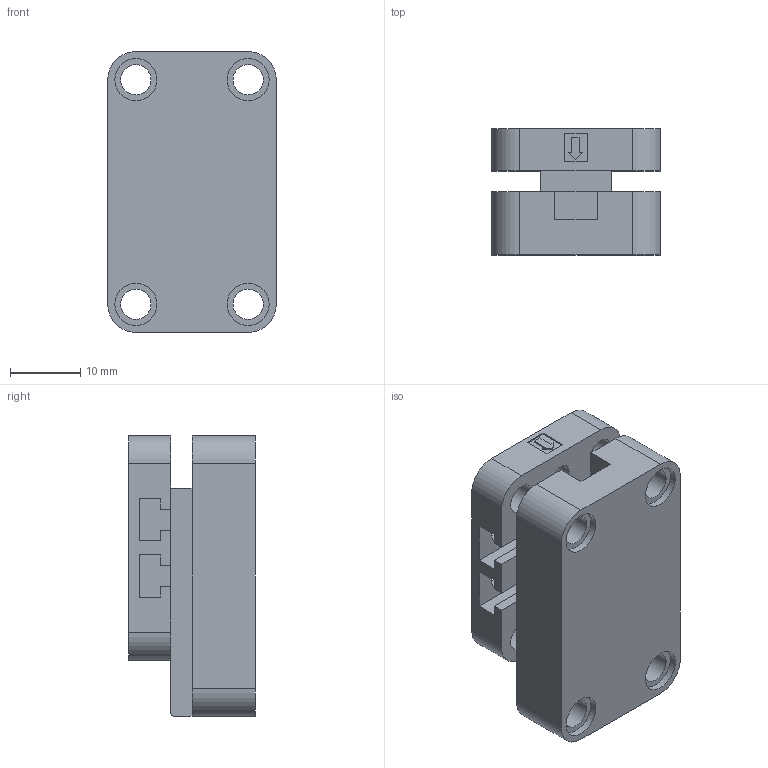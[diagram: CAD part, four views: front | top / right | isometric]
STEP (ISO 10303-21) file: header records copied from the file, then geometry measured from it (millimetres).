
FILE_DESCRIPTION(/* description */ (''),/* implementation_level */ '2;1');
FILE_NAME(/* name */ 'M5 Mini Scales Unit.stp',/* time_stamp */ '2025-01-02T17:19:36+01:00',/* author */ ('R5800u'),/* organization */ (''),/* preprocessor_version */ 'ST-DEVELOPER v20',/* originating_system */ 'Autodesk Inventor 2025',/* authorisation */ '');
FILE_SCHEMA (('AUTOMOTIVE_DESIGN { 1 0 10303 214 3 1 1 }'));
Length unit declared in the file: millimetre
Products named in the file (1): M5 Mini Scales Unit
Bounding box: 24 x 18 x 40 mm (x, y, z)
Volume: 11954.5 mm3; surface area: 6201.9 mm2
Topology: 1 solids, 1 shells, 218 faces, 590 edges, 389 vertices
Faces by surface type: plane 157, cylinder 31, bspline 30
Full cylindrical faces by diameter (mm): 3 x4, 3.2 x2, 4.3 x8, 6 x6
Entity records: 7056 total; most frequent: CARTESIAN_POINT 1588, ORIENTED_EDGE 1180, DIRECTION 971, EDGE_CURVE 590, LINE 467, VECTOR 467, VERTEX_POINT 389, EDGE_LOOP 259
